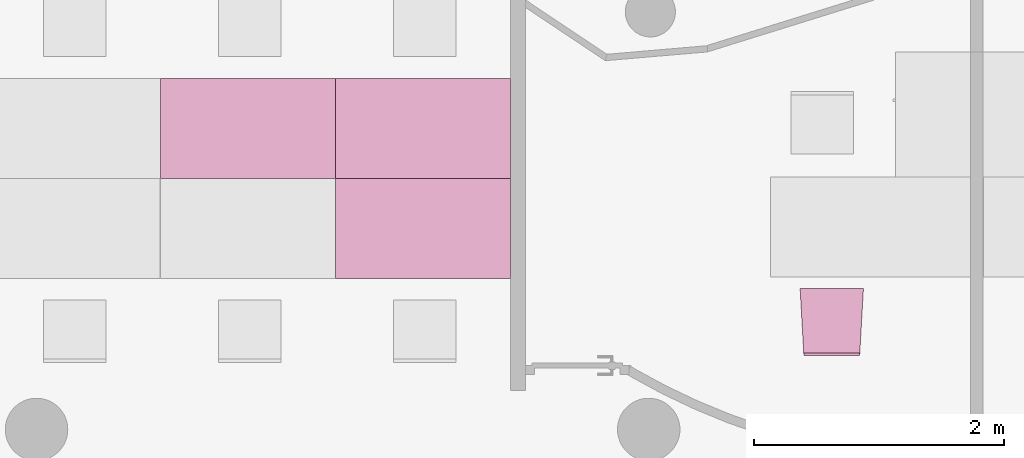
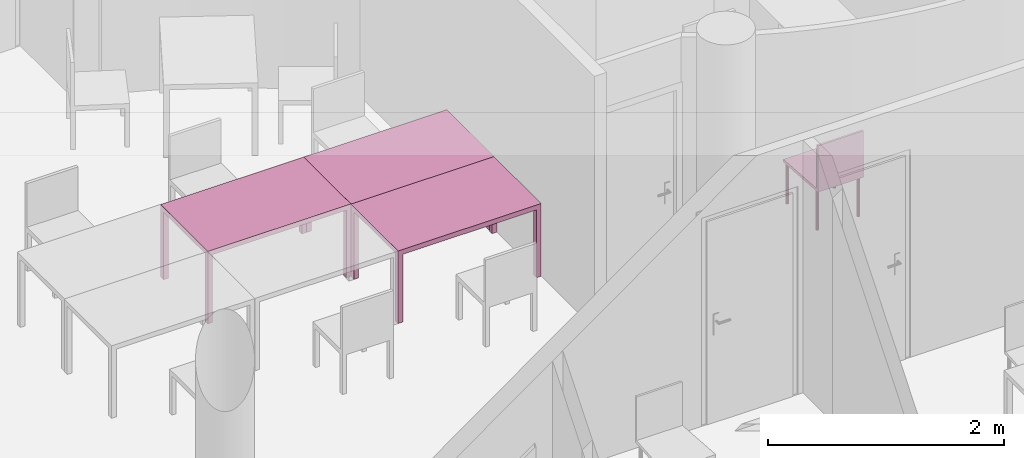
"""IFC4 building model written with IfcOpenShell, lengths in metres."""

from ifc_helpers import new_model, entity, si_unit, converted_unit, derived_unit, frame, origin, place, context, subcontext, project, spatial, faceted_brep, element, save


model = new_model("IFC4")

# Units and contexts
model_context = context("Model", 3, precision=1e-05, world=origin())
body_context = subcontext(model_context, "Body", "Model", "MODEL_VIEW")
ifc_project = project(units=[si_unit("LENGTHUNIT", "METRE"), si_unit("AREAUNIT", "SQUARE_METRE"), si_unit("VOLUMEUNIT", "CUBIC_METRE"), si_unit("MASSUNIT", "GRAM", prefix="KILO"), converted_unit("PLANEANGLEUNIT", "DEGREE", entity("IfcPlaneAngleMeasure", 0.0174532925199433), si_unit("PLANEANGLEUNIT", "RADIAN"), dimensions=[0, 0, 0, 0, 0, 0, 0]), derived_unit("THERMALTRANSMITTANCEUNIT", [(si_unit("POWERUNIT", "WATT"), 1), (si_unit("THERMODYNAMICTEMPERATUREUNIT", "KELVIN"), -1), (si_unit("LENGTHUNIT", "METRE"), -2)]), derived_unit("VOLUMETRICFLOWRATEUNIT", [(si_unit("LENGTHUNIT", "METRE"), 3), (converted_unit("TIMEUNIT", "hour", entity("IfcTimeMeasure", 3600.0), si_unit("TIMEUNIT", "SECOND"), dimensions=[0, 0, 1, 0, 0, 0, 0]), -1), (si_unit("LENGTHUNIT", "METRE"), -1)])], contexts=[model_context])

# Building, storeys
building_placement = place(None, origin())
building = spatial("IfcBuilding", under=ifc_project, at=building_placement, Name="HABITATGE PLURIFAMILIAR", CompositionType="ELEMENT")
storey_1_placement = place(building_placement, frame((0.0, 0.0, 6.25)))
storey_1 = spatial("IfcBuildingStorey", under=building, at=storey_1_placement, Name="PLANTA PRIMERA", CompositionType="ELEMENT", Elevation=6.25)
storey_2_placement = place(storey_1_placement, frame((0.0, 0.0, 3.35)))
storey_2 = spatial("IfcBuildingStorey", under=storey_1, at=storey_2_placement, Name="NOU", CompositionType="PARTIAL")

# Furniture
furniture_1_placement = place(storey_2_placement, frame((408.2292049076, 19.808724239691, -3.35)))
element("IfcFurniture", 1, at=furniture_1_placement, inside=storey_2, Name="Taula 140X80_P1", context=body_context, shape_type="Brep", body=[
    faceted_brep([(1.40000000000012, 0.05, 0.0), (1.35357142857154, 0.05, 0.0), (1.35357142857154, 0.0, 0.0), (1.40000000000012, 0.0, 0.0), (1.40000000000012, 0.0, 0.7), (1.35357142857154, 0.0, 0.7), (1.35357142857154, 0.05, 0.7), (1.40000000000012, 0.05, 0.7)], [[[0, 1, 2, 3]], [[4, 5, 6, 7]], [[3, 4, 7, 0]], [[2, 5, 4, 3]], [[1, 6, 5, 2]], [[0, 7, 6, 1]]], orient=[[False], [False], [False], [False], [False], [False]]),
    faceted_brep([(1.40000000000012, 0.800069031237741, 0.0), (1.35357142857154, 0.800069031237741, 0.0), (1.35357142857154, 0.750069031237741, 0.0), (1.40000000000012, 0.750069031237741, 0.0), (1.40000000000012, 0.750069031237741, 0.7), (1.35357142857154, 0.750069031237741, 0.7), (1.35357142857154, 0.800069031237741, 0.7), (1.40000000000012, 0.800069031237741, 0.7)], [[[0, 1, 2, 3]], [[4, 5, 6, 7]], [[3, 4, 7, 0]], [[2, 5, 4, 3]], [[1, 6, 5, 2]], [[0, 7, 6, 1]]], orient=[[False], [False], [False], [False], [False], [False]]),
    faceted_brep([(1.40000000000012, 0.800069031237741, 0.7), (0.0, 0.800069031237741, 0.7), (0.0, 0.0, 0.7), (1.40000000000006, 0.0, 0.7), (1.40000000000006, 0.0, 0.75), (0.0, 0.0, 0.75), (0.0, 0.800069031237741, 0.75), (1.40000000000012, 0.800069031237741, 0.75)], [[[0, 1, 2, 3]], [[4, 5, 6, 7]], [[3, 4, 7, 0]], [[2, 5, 4, 3]], [[1, 6, 5, 2]], [[0, 7, 6, 1]]], orient=[[False], [False], [False], [False], [False], [False]]),
    faceted_brep([(0.046428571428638, 0.05, 0.0), (0.0, 0.05, 0.0), (0.0, 0.0, 0.0), (0.046428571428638, 0.0, 0.0), (0.046428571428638, 0.0, 0.7), (0.0, 0.0, 0.7), (0.0, 0.05, 0.7), (0.046428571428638, 0.05, 0.7)], [[[0, 1, 2, 3]], [[4, 5, 6, 7]], [[3, 4, 7, 0]], [[2, 5, 4, 3]], [[1, 6, 5, 2]], [[0, 7, 6, 1]]], orient=[[False], [False], [False], [False], [False], [False]]),
    faceted_brep([(0.046428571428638, 0.800069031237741, 0.0), (0.0, 0.800069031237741, 0.0), (0.0, 0.750069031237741, 0.0), (0.046428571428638, 0.750069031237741, 0.0), (0.046428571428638, 0.750069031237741, 0.7), (0.0, 0.750069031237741, 0.7), (0.0, 0.800069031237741, 0.7), (0.046428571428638, 0.800069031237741, 0.7)], [[[0, 1, 2, 3]], [[4, 5, 6, 7]], [[3, 4, 7, 0]], [[2, 5, 4, 3]], [[1, 6, 5, 2]], [[0, 7, 6, 1]]], orient=[[False], [False], [False], [False], [False], [False]]),
])
furniture_2_placement = place(storey_2_placement, frame((406.829135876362, 19.808724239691, -3.35)))
element("IfcFurniture", 2, at=furniture_2_placement, inside=storey_2, Name="Taula 140X80_P1", context=body_context, shape_type="Brep", body=[
    faceted_brep([(1.40000000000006, 0.05, 0.0), (1.35357142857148, 0.05, 0.0), (1.35357142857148, 0.0, 0.0), (1.40000000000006, 0.0, 0.0), (1.40000000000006, 0.0, 0.7), (1.35357142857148, 0.0, 0.7), (1.35357142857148, 0.05, 0.7), (1.40000000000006, 0.05, 0.7)], [[[0, 1, 2, 3]], [[4, 5, 6, 7]], [[3, 4, 7, 0]], [[2, 5, 4, 3]], [[1, 6, 5, 2]], [[0, 7, 6, 1]]], orient=[[False], [False], [False], [False], [False], [False]]),
    faceted_brep([(1.40000000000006, 0.800069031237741, 0.0), (1.35357142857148, 0.800069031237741, 0.0), (1.35357142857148, 0.750069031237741, 0.0), (1.40000000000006, 0.750069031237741, 0.0), (1.40000000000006, 0.750069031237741, 0.7), (1.35357142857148, 0.750069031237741, 0.7), (1.35357142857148, 0.800069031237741, 0.7), (1.40000000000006, 0.800069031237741, 0.7)], [[[0, 1, 2, 3]], [[4, 5, 6, 7]], [[3, 4, 7, 0]], [[2, 5, 4, 3]], [[1, 6, 5, 2]], [[0, 7, 6, 1]]], orient=[[False], [False], [False], [False], [False], [False]]),
    faceted_brep([(1.4, 0.800069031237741, 0.7), (0.0, 0.800069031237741, 0.7), (0.0, 0.0, 0.7), (1.4, 0.0, 0.7), (1.4, 0.0, 0.75), (0.0, 0.0, 0.75), (0.0, 0.800069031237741, 0.75), (1.4, 0.800069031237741, 0.75)], [[[0, 1, 2, 3]], [[4, 5, 6, 7]], [[3, 4, 7, 0]], [[2, 5, 4, 3]], [[1, 6, 5, 2]], [[0, 7, 6, 1]]], orient=[[False], [False], [False], [False], [False], [False]]),
    faceted_brep([(0.0464285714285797, 0.05, 0.0), (0.0, 0.05, 0.0), (0.0, 0.0, 0.0), (0.0464285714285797, 0.0, 0.0), (0.0464285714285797, 0.0, 0.7), (0.0, 0.0, 0.7), (0.0, 0.05, 0.7), (0.0464285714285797, 0.05, 0.7)], [[[0, 1, 2, 3]], [[4, 5, 6, 7]], [[3, 4, 7, 0]], [[2, 5, 4, 3]], [[1, 6, 5, 2]], [[0, 7, 6, 1]]], orient=[[False], [False], [False], [False], [False], [False]]),
    faceted_brep([(0.0464285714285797, 0.800069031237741, 0.0), (0.0, 0.800069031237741, 0.0), (0.0, 0.750069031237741, 0.0), (0.0464285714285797, 0.750069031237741, 0.0), (0.0464285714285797, 0.750069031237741, 0.7), (0.0, 0.750069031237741, 0.7), (0.0, 0.800069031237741, 0.7), (0.0464285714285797, 0.800069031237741, 0.7)], [[[0, 1, 2, 3]], [[4, 5, 6, 7]], [[3, 4, 7, 0]], [[2, 5, 4, 3]], [[1, 6, 5, 2]], [[0, 7, 6, 1]]], orient=[[False], [False], [False], [False], [False], [False]]),
])
furniture_3_placement = place(storey_2_placement, frame((408.226984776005, 19.0086552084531, -3.35)))
element("IfcFurniture", 3, at=furniture_3_placement, inside=storey_2, Name="Taula 140X80_P1", context=body_context, shape_type="Brep", body=[
    faceted_brep([(1.40000000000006, 0.05, 0.0), (1.35357142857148, 0.05, 0.0), (1.35357142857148, 0.0, 0.0), (1.40000000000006, 0.0, 0.0), (1.40000000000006, 0.0, 0.7), (1.35357142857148, 0.0, 0.7), (1.35357142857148, 0.05, 0.7), (1.40000000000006, 0.05, 0.7)], [[[0, 1, 2, 3]], [[4, 5, 6, 7]], [[3, 4, 7, 0]], [[2, 5, 4, 3]], [[1, 6, 5, 2]], [[0, 7, 6, 1]]], orient=[[False], [False], [False], [False], [False], [False]]),
    faceted_brep([(1.40000000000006, 0.800069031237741, 0.0), (1.35357142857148, 0.800069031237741, 0.0), (1.35357142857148, 0.750069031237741, 0.0), (1.40000000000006, 0.750069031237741, 0.0), (1.40000000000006, 0.750069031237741, 0.7), (1.35357142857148, 0.750069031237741, 0.7), (1.35357142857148, 0.800069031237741, 0.7), (1.40000000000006, 0.800069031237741, 0.7)], [[[0, 1, 2, 3]], [[4, 5, 6, 7]], [[3, 4, 7, 0]], [[2, 5, 4, 3]], [[1, 6, 5, 2]], [[0, 7, 6, 1]]], orient=[[False], [False], [False], [False], [False], [False]]),
    faceted_brep([(1.4, 0.800069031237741, 0.7), (0.0, 0.800069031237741, 0.7), (0.0, 0.0, 0.7), (1.4, 0.0, 0.7), (1.4, 0.0, 0.75), (0.0, 0.0, 0.75), (0.0, 0.800069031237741, 0.75), (1.4, 0.800069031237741, 0.75)], [[[0, 1, 2, 3]], [[4, 5, 6, 7]], [[3, 4, 7, 0]], [[2, 5, 4, 3]], [[1, 6, 5, 2]], [[0, 7, 6, 1]]], orient=[[False], [False], [False], [False], [False], [False]]),
    faceted_brep([(0.0464285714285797, 0.05, 0.0), (0.0, 0.05, 0.0), (0.0, 0.0, 0.0), (0.0464285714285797, 0.0, 0.0), (0.0464285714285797, 0.0, 0.7), (0.0, 0.0, 0.7), (0.0, 0.05, 0.7), (0.0464285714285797, 0.05, 0.7)], [[[0, 1, 2, 3]], [[4, 5, 6, 7]], [[3, 4, 7, 0]], [[2, 5, 4, 3]], [[1, 6, 5, 2]], [[0, 7, 6, 1]]], orient=[[False], [False], [False], [False], [False], [False]]),
    faceted_brep([(0.0464285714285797, 0.800069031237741, 0.0), (0.0, 0.800069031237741, 0.0), (0.0, 0.750069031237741, 0.0), (0.0464285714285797, 0.750069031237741, 0.0), (0.0464285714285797, 0.750069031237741, 0.7), (0.0, 0.750069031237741, 0.7), (0.0, 0.800069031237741, 0.7), (0.0464285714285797, 0.800069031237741, 0.7)], [[[0, 1, 2, 3]], [[4, 5, 6, 7]], [[3, 4, 7, 0]], [[2, 5, 4, 3]], [[1, 6, 5, 2]], [[0, 7, 6, 1]]], orient=[[False], [False], [False], [False], [False], [False]]),
])
furniture_4_placement = place(storey_2_placement, frame((411.944644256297, 18.3927228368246, -3.35114412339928)))
element("IfcFurniture", 4, at=furniture_4_placement, inside=storey_2, Name="Cadira confient_P1", context=body_context, shape_type="Brep", body=[
    faceted_brep([(0.00928777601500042, 0.507575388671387, 0.0), (0.00950344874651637, 0.504980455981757, 0.0), (0.0101664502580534, 0.502462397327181, 0.0), (0.0112566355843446, 0.500097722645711, 0.0), (0.0127408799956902, 0.497958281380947, 0.0), (0.01457408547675, 0.496109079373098, 0.0), (0.0167005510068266, 0.494606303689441, 0.0), (0.0190556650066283, 0.493495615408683, 0.0), (0.0215678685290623, 0.492810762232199, 0.0), (0.0241608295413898, 0.492572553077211, 0.0), (0.0267557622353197, 0.492788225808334, 0.0), (0.0292738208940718, 0.493451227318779, 0.0), (0.0316384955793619, 0.494541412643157, 0.0), (0.0337779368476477, 0.496025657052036, 0.0), (0.0356271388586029, 0.49785886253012, 0.0), (0.0371299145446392, 0.499985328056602, 0.0), (0.0382406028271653, 0.502340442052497, 0.0), (0.0389254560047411, 0.504852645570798, 0.0), (0.0391636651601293, 0.507445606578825, 0.0), (0.0389479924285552, 0.510040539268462, 0.0), (0.0382849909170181, 0.512558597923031, 0.0), (0.0371948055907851, 0.514923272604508, 0.0), (0.0357105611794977, 0.517062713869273, 0.0), (0.0338773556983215, 0.518911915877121, 0.0), (0.0317508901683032, 0.520414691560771, 0.0), (0.0293957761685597, 0.521525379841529, 0.0), (0.0268835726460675, 0.52221023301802, 0.0), (0.0242906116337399, 0.522448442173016, 0.0), (0.02169567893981, 0.522232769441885, 0.0), (0.0191776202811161, 0.521569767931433, 0.0), (0.0168129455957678, 0.520479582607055, 0.0), (0.0146735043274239, 0.518995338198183, 0.0), (0.0128243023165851, 0.517162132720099, 0.0), (0.0113215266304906, 0.515035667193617, 0.0), (0.0102108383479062, 0.512680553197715, 0.0), (0.00952598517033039, 0.510168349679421, 0.0), (0.00928777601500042, 0.507575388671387, 0.448281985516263), (0.00952598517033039, 0.510168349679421, 0.448281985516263), (0.0102108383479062, 0.512680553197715, 0.448281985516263), (0.0113215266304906, 0.515035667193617, 0.448281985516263), (0.0128243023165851, 0.517162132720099, 0.448281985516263), (0.0146735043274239, 0.518995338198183, 0.448281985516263), (0.0168129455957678, 0.520479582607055, 0.448281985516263), (0.0191776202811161, 0.521569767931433, 0.448281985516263), (0.02169567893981, 0.522232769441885, 0.448281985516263), (0.0242906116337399, 0.522448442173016, 0.448281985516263), (0.0268835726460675, 0.52221023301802, 0.448281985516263), (0.0293957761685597, 0.521525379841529, 0.448281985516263), (0.0317508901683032, 0.520414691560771, 0.448281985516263), (0.0338773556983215, 0.518911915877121, 0.448281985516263), (0.0357105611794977, 0.517062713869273, 0.448281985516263), (0.0371948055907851, 0.514923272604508, 0.448281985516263), (0.0382849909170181, 0.512558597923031, 0.448281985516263), (0.0389479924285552, 0.510040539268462, 0.448281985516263), (0.0391636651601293, 0.507445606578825, 0.448281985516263), (0.0389254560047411, 0.504852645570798, 0.448281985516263), (0.0382406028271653, 0.502340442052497, 0.448281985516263), (0.0371299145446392, 0.499985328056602, 0.448281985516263), (0.0356271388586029, 0.49785886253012, 0.448281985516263), (0.0337779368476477, 0.496025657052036, 0.448281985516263), (0.0316384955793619, 0.494541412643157, 0.448281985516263), (0.0292738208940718, 0.493451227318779, 0.448281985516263), (0.0267557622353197, 0.492788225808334, 0.448281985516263), (0.0241608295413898, 0.492572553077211, 0.448281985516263), (0.0215678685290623, 0.492810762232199, 0.448281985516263), (0.0190556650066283, 0.493495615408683, 0.448281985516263), (0.0167005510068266, 0.494606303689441, 0.448281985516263), (0.01457408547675, 0.496109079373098, 0.448281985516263), (0.0127408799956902, 0.497958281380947, 0.448281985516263), (0.0112566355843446, 0.500097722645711, 0.448281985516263), (0.0101664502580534, 0.502462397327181, 0.448281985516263), (0.00950344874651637, 0.504980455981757, 0.448281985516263)], [[[0, 1, 2, 3, 4, 5, 6, 7, 8, 9, 10, 11, 12, 13, 14, 15, 16, 17, 18, 19, 20, 21, 22, 23, 24, 25, 26, 27, 28, 29, 30, 31, 32, 33, 34, 35]], [[36, 37, 38, 39, 40, 41, 42, 43, 44, 45, 46, 47, 48, 49, 50, 51, 52, 53, 54, 55, 56, 57, 58, 59, 60, 61, 62, 63, 64, 65, 66, 67, 68, 69, 70, 71]], [[1, 0, 36, 71]], [[2, 1, 71, 70]], [[3, 2, 70, 69]], [[4, 3, 69, 68]], [[5, 4, 68, 67]], [[6, 5, 67, 66]], [[7, 6, 66, 65]], [[8, 7, 65, 64]], [[9, 8, 64, 63]], [[10, 9, 63, 62]], [[11, 10, 62, 61]], [[12, 11, 61, 60]], [[13, 12, 60, 59]], [[14, 13, 59, 58]], [[15, 14, 58, 57]], [[16, 15, 57, 56]], [[17, 16, 56, 55]], [[18, 17, 55, 54]], [[19, 18, 54, 53]], [[20, 19, 53, 52]], [[21, 20, 52, 51]], [[22, 21, 51, 50]], [[23, 22, 50, 49]], [[24, 23, 49, 48]], [[25, 24, 48, 47]], [[26, 25, 47, 46]], [[27, 26, 46, 45]], [[28, 27, 45, 44]], [[29, 28, 44, 43]], [[30, 29, 43, 42]], [[31, 30, 42, 41]], [[32, 31, 41, 40]], [[33, 32, 40, 39]], [[34, 33, 39, 38]], [[35, 34, 38, 37]], [[0, 35, 37, 36]]], orient=[[False], [False], [False], [False], [False], [False], [False], [False], [False], [False], [False], [False], [False], [False], [False], [False], [False], [False], [False], [False], [False], [False], [False], [False], [False], [False], [False], [False], [False], [False], [False], [False], [False], [False], [False], [False], [False], [False]]),
    faceted_brep([(0.0369257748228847, 0.0451683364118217, 0.0), (0.0371414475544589, 0.0425734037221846, 0.0), (0.0378044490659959, 0.0400553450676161, 0.0), (0.0388946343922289, 0.0376906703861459, 0.0), (0.0403788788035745, 0.0355512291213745, 0.0), (0.0422120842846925, 0.0337020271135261, 0.0), (0.0443385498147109, 0.032199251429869, 0.0), (0.0466936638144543, 0.031088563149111, 0.0), (0.0492058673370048, 0.0304037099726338, 0.0), (0.0517988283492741, 0.0301655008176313, 0.0), (0.054393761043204, 0.0303811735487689, 0.0), (0.0569118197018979, 0.0310441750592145, 0.0), (0.0592764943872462, 0.0321343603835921, 0.0), (0.0614159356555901, 0.0336186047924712, 0.0), (0.0632651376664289, 0.0354518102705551, 0.0), (0.0647679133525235, 0.0375782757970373, 0.0), (0.0658786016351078, 0.0399333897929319, 0.0), (0.0665634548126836, 0.0424455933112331, 0.0), (0.0668016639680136, 0.0450385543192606, 0.0), (0.0665859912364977, 0.0476334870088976, 0.0), (0.0659229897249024, 0.0501515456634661, 0.0), (0.0648328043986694, 0.0525162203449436, 0.0), (0.0633485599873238, 0.0546556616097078, 0.0), (0.061515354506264, 0.0565048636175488, 0.0), (0.0593888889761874, 0.0580076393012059, 0.0), (0.0570337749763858, 0.059118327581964, 0.0), (0.0545215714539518, 0.0598031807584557, 0.0), (0.0519286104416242, 0.0600413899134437, 0.0), (0.0493336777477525, 0.0598257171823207, 0.0), (0.0468156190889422, 0.0591627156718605, 0.0), (0.0444509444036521, 0.0580725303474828, 0.0), (0.0423115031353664, 0.0565882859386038, 0.0), (0.0404623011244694, 0.0547550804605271, 0.0), (0.0389595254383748, 0.0526286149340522, 0.0), (0.0378488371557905, 0.0502735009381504, 0.0), (0.0371639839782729, 0.0477612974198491, 0.0), (0.0369257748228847, 0.0451683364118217, 0.448281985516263), (0.0371639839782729, 0.0477612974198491, 0.448281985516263), (0.0378488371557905, 0.0502735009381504, 0.448281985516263), (0.0389595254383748, 0.0526286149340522, 0.448281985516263), (0.0404623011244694, 0.0547550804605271, 0.448281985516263), (0.0423115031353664, 0.0565882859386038, 0.448281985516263), (0.0444509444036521, 0.0580725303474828, 0.448281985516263), (0.0468156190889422, 0.0591627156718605, 0.448281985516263), (0.0493336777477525, 0.0598257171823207, 0.448281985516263), (0.0519286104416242, 0.0600413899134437, 0.448281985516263), (0.0545215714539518, 0.0598031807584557, 0.448281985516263), (0.0570337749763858, 0.059118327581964, 0.448281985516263), (0.0593888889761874, 0.0580076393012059, 0.448281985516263), (0.061515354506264, 0.0565048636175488, 0.448281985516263), (0.0633485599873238, 0.0546556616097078, 0.448281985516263), (0.0648328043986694, 0.0525162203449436, 0.448281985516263), (0.0659229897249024, 0.0501515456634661, 0.448281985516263), (0.0665859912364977, 0.0476334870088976, 0.448281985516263), (0.0668016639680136, 0.0450385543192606, 0.448281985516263), (0.0665634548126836, 0.0424455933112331, 0.448281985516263), (0.0658786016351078, 0.0399333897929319, 0.448281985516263), (0.0647679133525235, 0.0375782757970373, 0.448281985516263), (0.0632651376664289, 0.0354518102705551, 0.448281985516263), (0.0614159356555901, 0.0336186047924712, 0.448281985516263), (0.0592764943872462, 0.0321343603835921, 0.448281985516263), (0.0569118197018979, 0.0310441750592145, 0.448281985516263), (0.054393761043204, 0.0303811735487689, 0.448281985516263), (0.0517988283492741, 0.0301655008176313, 0.448281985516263), (0.0492058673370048, 0.0304037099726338, 0.448281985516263), (0.0466936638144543, 0.031088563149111, 0.448281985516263), (0.0443385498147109, 0.032199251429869, 0.448281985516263), (0.0422120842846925, 0.0337020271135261, 0.448281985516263), (0.0403788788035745, 0.0355512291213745, 0.448281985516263), (0.0388946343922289, 0.0376906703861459, 0.448281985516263), (0.0378044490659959, 0.0400553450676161, 0.448281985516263), (0.0371414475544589, 0.0425734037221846, 0.448281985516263)], [[[0, 1, 2, 3, 4, 5, 6, 7, 8, 9, 10, 11, 12, 13, 14, 15, 16, 17, 18, 19, 20, 21, 22, 23, 24, 25, 26, 27, 28, 29, 30, 31, 32, 33, 34, 35]], [[36, 37, 38, 39, 40, 41, 42, 43, 44, 45, 46, 47, 48, 49, 50, 51, 52, 53, 54, 55, 56, 57, 58, 59, 60, 61, 62, 63, 64, 65, 66, 67, 68, 69, 70, 71]], [[1, 0, 36, 71]], [[2, 1, 71, 70]], [[3, 2, 70, 69]], [[4, 3, 69, 68]], [[5, 4, 68, 67]], [[6, 5, 67, 66]], [[7, 6, 66, 65]], [[8, 7, 65, 64]], [[9, 8, 64, 63]], [[10, 9, 63, 62]], [[11, 10, 62, 61]], [[12, 11, 61, 60]], [[13, 12, 60, 59]], [[14, 13, 59, 58]], [[15, 14, 58, 57]], [[16, 15, 57, 56]], [[17, 16, 56, 55]], [[18, 17, 55, 54]], [[19, 18, 54, 53]], [[20, 19, 53, 52]], [[21, 20, 52, 51]], [[22, 21, 51, 50]], [[23, 22, 50, 49]], [[24, 23, 49, 48]], [[25, 24, 48, 47]], [[26, 25, 47, 46]], [[27, 26, 46, 45]], [[28, 27, 45, 44]], [[29, 28, 44, 43]], [[30, 29, 43, 42]], [[31, 30, 42, 41]], [[32, 31, 41, 40]], [[33, 32, 40, 39]], [[34, 33, 39, 38]], [[35, 34, 38, 37]], [[0, 35, 37, 36]]], orient=[[False], [False], [False], [False], [False], [False], [False], [False], [False], [False], [False], [False], [False], [False], [False], [False], [False], [False], [False], [False], [False], [False], [False], [False], [False], [False], [False], [False], [False], [False], [False], [False], [False], [False], [False], [False], [False], [False]]),
    faceted_brep([(0.469287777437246, 0.507575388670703, 0.0), (0.469503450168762, 0.504980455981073, 0.0), (0.470166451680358, 0.502462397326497, 0.0), (0.471256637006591, 0.500097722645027, 0.0), (0.472740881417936, 0.497958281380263, 0.0), (0.474574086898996, 0.496109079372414, 0.0), (0.476700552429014, 0.494606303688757, 0.0), (0.479055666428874, 0.493495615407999, 0.0), (0.481567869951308, 0.492810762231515, 0.0), (0.484160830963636, 0.492572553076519, 0.0), (0.486755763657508, 0.49278822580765, 0.0), (0.489273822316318, 0.493451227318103, 0.0), (0.491638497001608, 0.494541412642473, 0.0), (0.493777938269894, 0.496025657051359, 0.0), (0.495627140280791, 0.497858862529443, 0.0), (0.497129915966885, 0.499985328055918, 0.0), (0.498240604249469, 0.502340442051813, 0.0), (0.498925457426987, 0.504852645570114, 0.0), (0.499163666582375, 0.507445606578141, 0.0), (0.498947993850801, 0.510040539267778, 0.0), (0.498284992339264, 0.512558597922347, 0.0), (0.497194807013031, 0.514923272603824, 0.0), (0.495710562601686, 0.517062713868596, 0.0), (0.493877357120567, 0.518911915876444, 0.0), (0.491750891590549, 0.520414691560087, 0.0), (0.489395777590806, 0.521525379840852, 0.0), (0.486883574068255, 0.522210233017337, 0.0), (0.484290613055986, 0.522448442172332, 0.0), (0.481695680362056, 0.522232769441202, 0.0), (0.479177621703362, 0.521569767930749, 0.0), (0.476812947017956, 0.520479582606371, 0.0), (0.47467350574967, 0.518995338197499, 0.0), (0.472824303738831, 0.517162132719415, 0.0), (0.471321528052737, 0.515035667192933, 0.0), (0.470210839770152, 0.512680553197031, 0.0), (0.469525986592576, 0.510168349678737, 0.0), (0.469287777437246, 0.507575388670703, 0.448281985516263), (0.469525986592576, 0.510168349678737, 0.448281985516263), (0.470210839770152, 0.512680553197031, 0.448281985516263), (0.471321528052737, 0.515035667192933, 0.448281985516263), (0.472824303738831, 0.517162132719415, 0.448281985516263), (0.47467350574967, 0.518995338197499, 0.448281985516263), (0.476812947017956, 0.520479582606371, 0.448281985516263), (0.479177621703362, 0.521569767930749, 0.448281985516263), (0.481695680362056, 0.522232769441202, 0.448281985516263), (0.484290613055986, 0.522448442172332, 0.448281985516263), (0.486883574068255, 0.522210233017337, 0.448281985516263), (0.489395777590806, 0.521525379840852, 0.448281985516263), (0.491750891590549, 0.520414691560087, 0.448281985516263), (0.493877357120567, 0.518911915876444, 0.448281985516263), (0.495710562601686, 0.517062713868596, 0.448281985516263), (0.497194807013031, 0.514923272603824, 0.448281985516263), (0.498284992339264, 0.512558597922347, 0.448281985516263), (0.498947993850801, 0.510040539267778, 0.448281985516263), (0.499163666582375, 0.507445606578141, 0.448281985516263), (0.498925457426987, 0.504852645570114, 0.448281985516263), (0.498240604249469, 0.502340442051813, 0.448281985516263), (0.497129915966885, 0.499985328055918, 0.448281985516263), (0.495627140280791, 0.497858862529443, 0.448281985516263), (0.493777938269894, 0.496025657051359, 0.448281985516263), (0.491638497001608, 0.494541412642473, 0.448281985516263), (0.489273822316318, 0.493451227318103, 0.448281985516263), (0.486755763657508, 0.49278822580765, 0.448281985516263), (0.484160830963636, 0.492572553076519, 0.448281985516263), (0.481567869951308, 0.492810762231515, 0.448281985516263), (0.479055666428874, 0.493495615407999, 0.448281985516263), (0.476700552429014, 0.494606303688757, 0.448281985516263), (0.474574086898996, 0.496109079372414, 0.448281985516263), (0.472740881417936, 0.497958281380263, 0.448281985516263), (0.471256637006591, 0.500097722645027, 0.448281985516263), (0.470166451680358, 0.502462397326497, 0.448281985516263), (0.469503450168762, 0.504980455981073, 0.448281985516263)], [[[0, 1, 2, 3, 4, 5, 6, 7, 8, 9, 10, 11, 12, 13, 14, 15, 16, 17, 18, 19, 20, 21, 22, 23, 24, 25, 26, 27, 28, 29, 30, 31, 32, 33, 34, 35]], [[36, 37, 38, 39, 40, 41, 42, 43, 44, 45, 46, 47, 48, 49, 50, 51, 52, 53, 54, 55, 56, 57, 58, 59, 60, 61, 62, 63, 64, 65, 66, 67, 68, 69, 70, 71]], [[1, 0, 36, 71]], [[2, 1, 71, 70]], [[3, 2, 70, 69]], [[4, 3, 69, 68]], [[5, 4, 68, 67]], [[6, 5, 67, 66]], [[7, 6, 66, 65]], [[8, 7, 65, 64]], [[9, 8, 64, 63]], [[10, 9, 63, 62]], [[11, 10, 62, 61]], [[12, 11, 61, 60]], [[13, 12, 60, 59]], [[14, 13, 59, 58]], [[15, 14, 58, 57]], [[16, 15, 57, 56]], [[17, 16, 56, 55]], [[18, 17, 55, 54]], [[19, 18, 54, 53]], [[20, 19, 53, 52]], [[21, 20, 52, 51]], [[22, 21, 51, 50]], [[23, 22, 50, 49]], [[24, 23, 49, 48]], [[25, 24, 48, 47]], [[26, 25, 47, 46]], [[27, 26, 46, 45]], [[28, 27, 45, 44]], [[29, 28, 44, 43]], [[30, 29, 43, 42]], [[31, 30, 42, 41]], [[32, 31, 41, 40]], [[33, 32, 40, 39]], [[34, 33, 39, 38]], [[35, 34, 38, 37]], [[0, 35, 37, 36]]], orient=[[False], [False], [False], [False], [False], [False], [False], [False], [False], [False], [False], [False], [False], [False], [False], [False], [False], [False], [False], [False], [False], [False], [False], [False], [False], [False], [False], [False], [False], [False], [False], [False], [False], [False], [False], [False], [False], [False]]),
    faceted_brep([(0.436925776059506, 0.0451683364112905, 0.0), (0.437141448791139, 0.0425734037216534, 0.0), (0.437804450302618, 0.0400553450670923, 0.0), (0.438894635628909, 0.0376906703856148, 0.0), (0.440378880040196, 0.0355512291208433, 0.0), (0.442212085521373, 0.033702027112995, 0.0), (0.444338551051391, 0.0321992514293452, 0.0), (0.446693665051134, 0.0310885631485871, 0.0), (0.449205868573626, 0.0304037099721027, 0.0), (0.451798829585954, 0.0301655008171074, 0.0), (0.454393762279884, 0.0303811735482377, 0.0), (0.456911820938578, 0.0310441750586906, 0.0), (0.459276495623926, 0.0321343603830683, 0.0), (0.461415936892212, 0.03361860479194, 0.0), (0.463265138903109, 0.035451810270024, 0.0), (0.464767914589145, 0.0375782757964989, 0.0), (0.46587860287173, 0.0399333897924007, 0.0), (0.466563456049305, 0.042445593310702, 0.0), (0.466801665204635, 0.0450385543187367, 0.0), (0.466585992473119, 0.0476334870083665, 0.0), (0.465922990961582, 0.0501515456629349, 0.0), (0.464832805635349, 0.0525162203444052, 0.0), (0.463348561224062, 0.0546556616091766, 0.0), (0.461515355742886, 0.056504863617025, 0.0), (0.459388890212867, 0.0580076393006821, 0.0), (0.457033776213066, 0.0591183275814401, 0.0), (0.454521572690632, 0.0598031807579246, 0.0), (0.451928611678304, 0.0600413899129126, 0.0), (0.449333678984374, 0.0598257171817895, 0.0), (0.446815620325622, 0.0591627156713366, 0.0), (0.444450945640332, 0.058072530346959, 0.0), (0.442311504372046, 0.0565882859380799, 0.0), (0.440462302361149, 0.054755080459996, 0.0), (0.438959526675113, 0.052628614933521, 0.0), (0.437848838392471, 0.0502735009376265, 0.0), (0.437163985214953, 0.047761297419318, 0.0), (0.436925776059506, 0.0451683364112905, 0.448281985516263), (0.437163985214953, 0.047761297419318, 0.448281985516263), (0.437848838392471, 0.0502735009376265, 0.448281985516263), (0.438959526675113, 0.052628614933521, 0.448281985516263), (0.440462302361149, 0.054755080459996, 0.448281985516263), (0.442311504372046, 0.0565882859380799, 0.448281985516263), (0.444450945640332, 0.058072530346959, 0.448281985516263), (0.446815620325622, 0.0591627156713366, 0.448281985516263), (0.449333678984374, 0.0598257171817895, 0.448281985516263), (0.451928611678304, 0.0600413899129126, 0.448281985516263), (0.454521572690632, 0.0598031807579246, 0.448281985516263), (0.457033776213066, 0.0591183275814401, 0.448281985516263), (0.459388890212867, 0.0580076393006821, 0.448281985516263), (0.461515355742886, 0.056504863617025, 0.448281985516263), (0.463348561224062, 0.0546556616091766, 0.448281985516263), (0.464832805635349, 0.0525162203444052, 0.448281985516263), (0.465922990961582, 0.0501515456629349, 0.448281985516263), (0.466585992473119, 0.0476334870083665, 0.448281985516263), (0.466801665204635, 0.0450385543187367, 0.448281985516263), (0.466563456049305, 0.042445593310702, 0.448281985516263), (0.46587860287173, 0.0399333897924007, 0.448281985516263), (0.464767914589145, 0.0375782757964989, 0.448281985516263), (0.463265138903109, 0.035451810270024, 0.448281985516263), (0.461415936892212, 0.03361860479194, 0.448281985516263), (0.459276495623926, 0.0321343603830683, 0.448281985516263), (0.456911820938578, 0.0310441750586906, 0.448281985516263), (0.454393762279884, 0.0303811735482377, 0.448281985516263), (0.451798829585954, 0.0301655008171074, 0.448281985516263), (0.449205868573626, 0.0304037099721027, 0.448281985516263), (0.446693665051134, 0.0310885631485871, 0.448281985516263), (0.444338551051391, 0.0321992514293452, 0.448281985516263), (0.442212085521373, 0.033702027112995, 0.448281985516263), (0.440378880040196, 0.0355512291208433, 0.448281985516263), (0.438894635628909, 0.0376906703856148, 0.448281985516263), (0.437804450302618, 0.0400553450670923, 0.448281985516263), (0.437141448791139, 0.0425734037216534, 0.448281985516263)], [[[0, 1, 2, 3, 4, 5, 6, 7, 8, 9, 10, 11, 12, 13, 14, 15, 16, 17, 18, 19, 20, 21, 22, 23, 24, 25, 26, 27, 28, 29, 30, 31, 32, 33, 34, 35]], [[36, 37, 38, 39, 40, 41, 42, 43, 44, 45, 46, 47, 48, 49, 50, 51, 52, 53, 54, 55, 56, 57, 58, 59, 60, 61, 62, 63, 64, 65, 66, 67, 68, 69, 70, 71]], [[1, 0, 36, 71]], [[2, 1, 71, 70]], [[3, 2, 70, 69]], [[4, 3, 69, 68]], [[5, 4, 68, 67]], [[6, 5, 67, 66]], [[7, 6, 66, 65]], [[8, 7, 65, 64]], [[9, 8, 64, 63]], [[10, 9, 63, 62]], [[11, 10, 62, 61]], [[12, 11, 61, 60]], [[13, 12, 60, 59]], [[14, 13, 59, 58]], [[15, 14, 58, 57]], [[16, 15, 57, 56]], [[17, 16, 56, 55]], [[18, 17, 55, 54]], [[19, 18, 54, 53]], [[20, 19, 53, 52]], [[21, 20, 52, 51]], [[22, 21, 51, 50]], [[23, 22, 50, 49]], [[24, 23, 49, 48]], [[25, 24, 48, 47]], [[26, 25, 47, 46]], [[27, 26, 46, 45]], [[28, 27, 45, 44]], [[29, 28, 44, 43]], [[30, 29, 43, 42]], [[31, 30, 42, 41]], [[32, 31, 41, 40]], [[33, 32, 40, 39]], [[34, 33, 39, 38]], [[35, 34, 38, 37]], [[0, 35, 37, 36]]], orient=[[False], [False], [False], [False], [False], [False], [False], [False], [False], [False], [False], [False], [False], [False], [False], [False], [False], [False], [False], [False], [False], [False], [False], [False], [False], [False], [False], [False], [False], [False], [False], [False], [False], [False], [False], [False], [False], [False]]),
    faceted_brep([(0.476514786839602, 0.0, 0.418281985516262), (0.506514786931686, 0.532607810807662, 0.418281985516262), (0.0, 0.532607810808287, 0.418281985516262), (0.0300000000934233, 0.0, 0.418281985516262), (0.506514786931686, 0.532607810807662, 0.448281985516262), (0.476514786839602, 0.0, 0.448281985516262), (0.0300000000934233, 0.0, 0.448281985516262), (0.0, 0.532607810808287, 0.448281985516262)], [[[0, 1, 2, 3]], [[4, 5, 6, 7]], [[1, 0, 5, 4]], [[2, 1, 4, 7]], [[3, 2, 7, 6]], [[0, 3, 6, 5]]], orient=[[False], [False], [False], [False], [False], [False]]),
    faceted_brep([(0.476514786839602, 0.02000000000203, 0.448281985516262), (0.0300000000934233, 0.0200000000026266, 0.448281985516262), (0.0300000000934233, 0.0, 0.448281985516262), (0.476514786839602, 0.0, 0.448281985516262), (0.0300000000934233, 0.0200000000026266, 0.898281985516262), (0.476514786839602, 0.02000000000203, 0.898281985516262), (0.476514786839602, 0.0, 0.898281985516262), (0.0300000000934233, 0.0, 0.898281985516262)], [[[0, 1, 2, 3]], [[4, 5, 6, 7]], [[1, 0, 5, 4]], [[2, 1, 4, 7]], [[3, 2, 7, 6]], [[0, 3, 6, 5]]], orient=[[False], [False], [False], [False], [False], [False]]),
])

save(model, "model.ifc")
